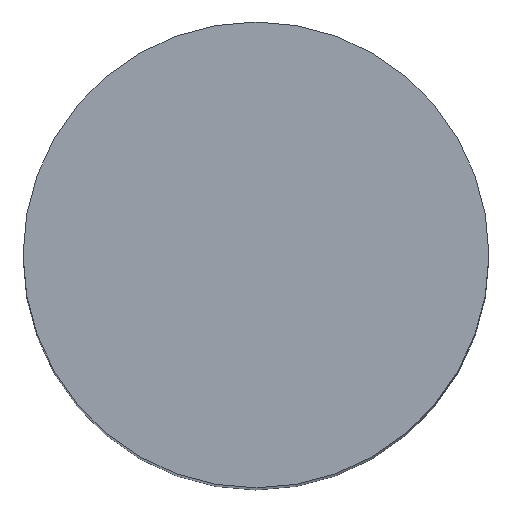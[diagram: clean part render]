
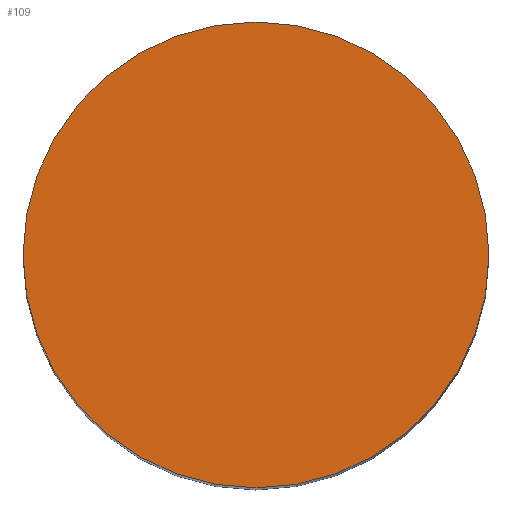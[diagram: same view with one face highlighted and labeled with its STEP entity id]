
A CAD part, top view. The second image highlights one B-rep face of the part: STEP entity #109.
In plain terms, the highlighted planar face has unit normal (0, 0, 1).
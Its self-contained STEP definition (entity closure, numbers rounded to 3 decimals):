
#24 = VERTEX_POINT('',#25);
#25 = CARTESIAN_POINT('',(-21.5,-20.7,15.3));
#32 = CYLINDRICAL_SURFACE('',#33,1.5);
#33 = AXIS2_PLACEMENT_3D('',#34,#35,#36);
#34 = CARTESIAN_POINT('',(-23.,-20.7,7.3));
#35 = DIRECTION('',(-0.,-0.,-1.));
#36 = DIRECTION('',(1.,0.,0.));
#51 = EDGE_CURVE('',#24,#24,#52,.T.);
#52 = SURFACE_CURVE('',#53,(#58,#65),.PCURVE_S1.);
#53 = CIRCLE('',#54,1.5);
#54 = AXIS2_PLACEMENT_3D('',#55,#56,#57);
#55 = CARTESIAN_POINT('',(-23.,-20.7,15.3));
#56 = DIRECTION('',(0.,0.,1.));
#57 = DIRECTION('',(1.,0.,0.));
#58 = PCURVE('',#32,#59);
#59 = DEFINITIONAL_REPRESENTATION('',(#60),#64);
#60 = LINE('',#61,#62);
#61 = CARTESIAN_POINT('',(-0.,-8.));
#62 = VECTOR('',#63,1.);
#63 = DIRECTION('',(-1.,0.));
#64 = ( GEOMETRIC_REPRESENTATION_CONTEXT(2) 
PARAMETRIC_REPRESENTATION_CONTEXT() REPRESENTATION_CONTEXT('2D SPACE',''
  ) );
#65 = PCURVE('',#66,#71);
#66 = PLANE('',#67);
#67 = AXIS2_PLACEMENT_3D('',#68,#69,#70);
#68 = CARTESIAN_POINT('',(-23.,-20.7,15.3));
#69 = DIRECTION('',(0.,0.,1.));
#70 = DIRECTION('',(1.,0.,-0.));
#71 = DEFINITIONAL_REPRESENTATION('',(#72),#76);
#72 = CIRCLE('',#73,1.5);
#73 = AXIS2_PLACEMENT_2D('',#74,#75);
#74 = CARTESIAN_POINT('',(0.,0.));
#75 = DIRECTION('',(1.,0.));
#76 = ( GEOMETRIC_REPRESENTATION_CONTEXT(2) 
PARAMETRIC_REPRESENTATION_CONTEXT() REPRESENTATION_CONTEXT('2D SPACE',''
  ) );
#109 = ADVANCED_FACE('',(#110),#66,.T.);
#110 = FACE_BOUND('',#111,.T.);
#111 = EDGE_LOOP('',(#112));
#112 = ORIENTED_EDGE('',*,*,#51,.T.);
